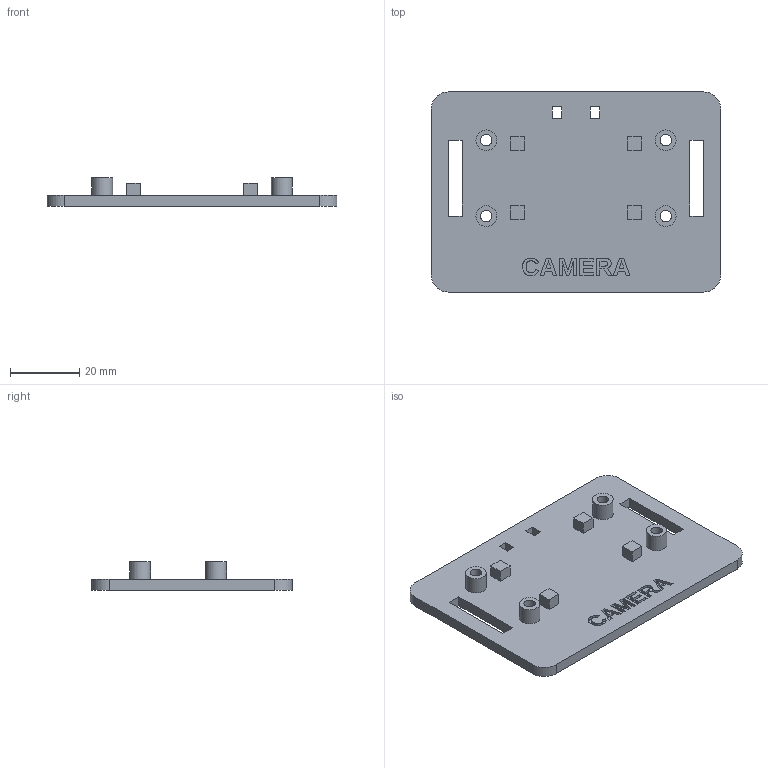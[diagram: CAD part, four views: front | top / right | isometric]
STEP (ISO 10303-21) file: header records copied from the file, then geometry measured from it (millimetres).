
FILE_DESCRIPTION(('Open CASCADE Model'),'2;1');
FILE_NAME('Open CASCADE Shape Model','2026-11-10T16:40:47',('Author'),( 'Open CASCADE'),'Open CASCADE STEP processor 7.9','Open CASCADE 7.9' ,'Unknown');
FILE_SCHEMA(('AUTOMOTIVE_DESIGN { 1 0 10303 214 1 1 1 1 }'));
Length unit declared in the file: millimetre
Products named in the file (1): Open CASCADE STEP translator 7.9 1
Bounding box: 84 x 58 x 8.3 mm (x, y, z)
Volume: 15217.2 mm3; surface area: 11684.5 mm2
Topology: 1 solids, 1 shells, 173 faces, 450 edges, 300 vertices
Faces by surface type: plane 127, extrusion 30, cylinder 16
Full cylindrical faces by diameter (mm): 3.3 x4, 6 x8
Entity records: 12138 total; most frequent: CARTESIAN_POINT 3584, DIRECTION 1340, VECTOR 966, LINE 936, ORIENTED_EDGE 900, PCURVE 900, DEFINITIONAL_REPRESENTATION 900, EDGE_CURVE 450
